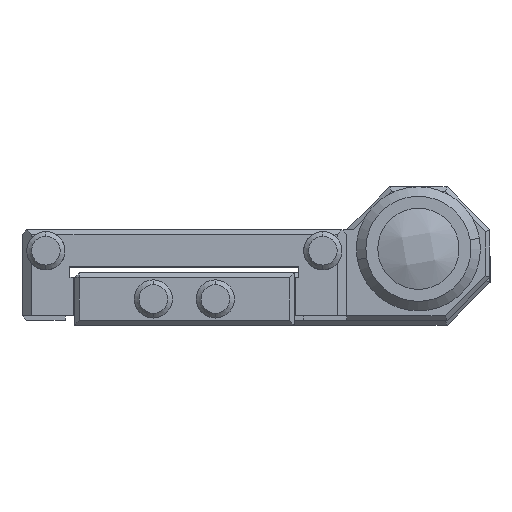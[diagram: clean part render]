
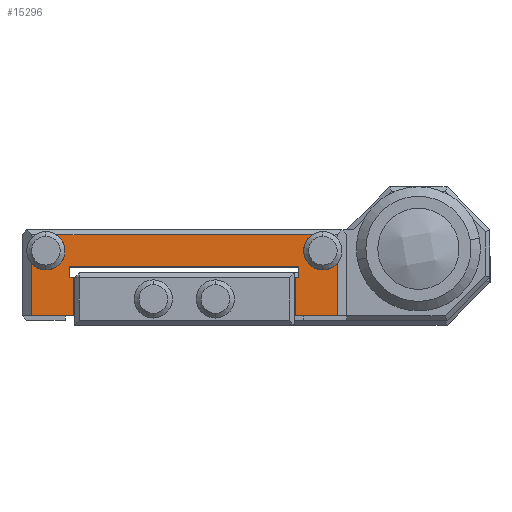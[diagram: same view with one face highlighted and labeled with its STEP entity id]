
A CAD part, left-side view. The second image highlights one B-rep face of the part: STEP entity #15296.
In plain terms, the highlighted planar face has unit normal (-1, 0, 0).
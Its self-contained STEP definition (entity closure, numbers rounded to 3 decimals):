
#12 = VERTEX_POINT ( 'NONE', #20867 ) ;
#289 = CARTESIAN_POINT ( 'NONE',  ( -17., -12., 5.7 ) ) ;
#360 = CARTESIAN_POINT ( 'NONE',  ( -17., -14.5, 7.3 ) ) ;
#939 = VECTOR ( 'NONE', #5331, 1000. ) ;
#1119 = CARTESIAN_POINT ( 'NONE',  ( -17., 14.5, 5.3 ) ) ;
#1230 = VECTOR ( 'NONE', #7948, 1000. ) ;
#1508 = ORIENTED_EDGE ( 'NONE', *, *, #19698, .F. ) ;
#1907 = VECTOR ( 'NONE', #25303, 1000. ) ;
#2067 = VECTOR ( 'NONE', #21913, 1000. ) ;
#2158 = ORIENTED_EDGE ( 'NONE', *, *, #13503, .F. ) ;
#2373 = CARTESIAN_POINT ( 'NONE',  ( -17., 0., 0. ) ) ;
#2487 = DIRECTION ( 'NONE',  ( 0., 0., -1. ) ) ;
#2815 = CARTESIAN_POINT ( 'NONE',  ( -17., -11.6, 4.5 ) ) ;
#3107 = VECTOR ( 'NONE', #11170, 1000. ) ;
#3125 = FACE_OUTER_BOUND ( 'NONE', #26405, .T. ) ;
#3163 = DIRECTION ( 'NONE',  ( 0., 0., 1. ) ) ;
#3299 = CARTESIAN_POINT ( 'NONE',  ( -17., -11.6, 0.5 ) ) ;
#3456 = CARTESIAN_POINT ( 'NONE',  ( -17., 13.446, 9. ) ) ;
#3812 = VERTEX_POINT ( 'NONE', #3299 ) ;
#4223 = LINE ( 'NONE', #22710, #23330 ) ;
#4507 = LINE ( 'NONE', #25790, #939 ) ;
#4589 = CARTESIAN_POINT ( 'NONE',  ( -17., -13.446, 9. ) ) ;
#4711 = EDGE_CURVE ( 'NONE', #3812, #24171, #5067, .T. ) ;
#4751 = ORIENTED_EDGE ( 'NONE', *, *, #21005, .F. ) ;
#4964 = CARTESIAN_POINT ( 'NONE',  ( -17., -16., 0. ) ) ;
#5067 = LINE ( 'NONE', #25838, #26444 ) ;
#5102 = VECTOR ( 'NONE', #12920, 1000. ) ;
#5184 = DIRECTION ( 'NONE',  ( 0., 0., -1. ) ) ;
#5331 = DIRECTION ( 'NONE',  ( 0., 0., 1. ) ) ;
#5410 = AXIS2_PLACEMENT_3D ( 'NONE', #16371, #20536, #18354 ) ;
#5489 = VERTEX_POINT ( 'NONE', #18974 ) ;
#5853 = CARTESIAN_POINT ( 'NONE',  ( -17., -12., 0. ) ) ;
#6793 = ORIENTED_EDGE ( 'NONE', *, *, #7812, .T. ) ;
#7169 = LINE ( 'NONE', #14220, #16560 ) ;
#7277 = LINE ( 'NONE', #9074, #3107 ) ;
#7563 = VERTEX_POINT ( 'NONE', #14218 ) ;
#7651 = AXIS2_PLACEMENT_3D ( 'NONE', #360, #18905, #2487 ) ;
#7812 = EDGE_CURVE ( 'NONE', #23933, #8408, #7277, .T. ) ;
#7873 = VERTEX_POINT ( 'NONE', #1119 ) ;
#7924 = LINE ( 'NONE', #5853, #18291 ) ;
#7948 = DIRECTION ( 'NONE',  ( 0., -1., 0. ) ) ;
#8183 = DIRECTION ( 'NONE',  ( 0., 0., -1. ) ) ;
#8408 = VERTEX_POINT ( 'NONE', #3456 ) ;
#8829 = CARTESIAN_POINT ( 'NONE',  ( -17., -14.5, 5.3 ) ) ;
#9074 = CARTESIAN_POINT ( 'NONE',  ( -17., 0., 9. ) ) ;
#9119 = DIRECTION ( 'NONE',  ( 1., 0., 0. ) ) ;
#9248 = VERTEX_POINT ( 'NONE', #18708 ) ;
#9729 = DIRECTION ( 'NONE',  ( -1., 0., 0. ) ) ;
#9850 = DIRECTION ( 'NONE',  ( -1., 0., 0. ) ) ;
#9946 = ORIENTED_EDGE ( 'NONE', *, *, #11439, .F. ) ;
#10401 = PLANE ( 'NONE',  #19712 ) ;
#11170 = DIRECTION ( 'NONE',  ( 0., 1., 0. ) ) ;
#11383 = DIRECTION ( 'NONE',  ( 0., 0., -1. ) ) ;
#11439 = EDGE_CURVE ( 'NONE', #21238, #19912, #4223, .T. ) ;
#11628 = ORIENTED_EDGE ( 'NONE', *, *, #21805, .F. ) ;
#11928 = CARTESIAN_POINT ( 'NONE',  ( -17., 11.6, 4.5 ) ) ;
#12137 = ORIENTED_EDGE ( 'NONE', *, *, #24673, .F. ) ;
#12262 = ORIENTED_EDGE ( 'NONE', *, *, #16581, .F. ) ;
#12325 = EDGE_CURVE ( 'NONE', #12, #5489, #4507, .T. ) ;
#12357 = DIRECTION ( 'NONE',  ( 0., 0., -1. ) ) ;
#12621 = EDGE_CURVE ( 'NONE', #19369, #3812, #22624, .T. ) ;
#12920 = DIRECTION ( 'NONE',  ( 0., 1., 0. ) ) ;
#13174 = ORIENTED_EDGE ( 'NONE', *, *, #24451, .F. ) ;
#13199 = AXIS2_PLACEMENT_3D ( 'NONE', #24160, #9850, #8183 ) ;
#13252 = ORIENTED_EDGE ( 'NONE', *, *, #4711, .F. ) ;
#13460 = DIRECTION ( 'NONE',  ( 0., 0., -1. ) ) ;
#13503 = EDGE_CURVE ( 'NONE', #17694, #21238, #23247, .T. ) ;
#13538 = DIRECTION ( 'NONE',  ( 0., 0., -1. ) ) ;
#13677 = ORIENTED_EDGE ( 'NONE', *, *, #25802, .F. ) ;
#13817 = CARTESIAN_POINT ( 'NONE',  ( -17., 0., 0.5 ) ) ;
#13824 = ORIENTED_EDGE ( 'NONE', *, *, #12325, .F. ) ;
#14218 = CARTESIAN_POINT ( 'NONE',  ( -17., -12., 4.5 ) ) ;
#14220 = CARTESIAN_POINT ( 'NONE',  ( -17., -12., 4.5 ) ) ;
#14614 = LINE ( 'NONE', #17667, #21458 ) ;
#15296 = ADVANCED_FACE ( 'NONE', ( #3125 ), #10401, .F. ) ;
#16204 = CARTESIAN_POINT ( 'NONE',  ( -17., 12., 4.5 ) ) ;
#16371 = CARTESIAN_POINT ( 'NONE',  ( -17., 14.5, 7.3 ) ) ;
#16560 = VECTOR ( 'NONE', #18297, 1000. ) ;
#16581 = EDGE_CURVE ( 'NONE', #19912, #12, #26009, .T. ) ;
#16952 = ORIENTED_EDGE ( 'NONE', *, *, #12621, .F. ) ;
#17213 = CIRCLE ( 'NONE', #18382, 2. ) ;
#17297 = CIRCLE ( 'NONE', #5410, 2. ) ;
#17667 = CARTESIAN_POINT ( 'NONE',  ( -17., 12., 0. ) ) ;
#17694 = VERTEX_POINT ( 'NONE', #22572 ) ;
#18135 = VERTEX_POINT ( 'NONE', #8829 ) ;
#18211 = CARTESIAN_POINT ( 'NONE',  ( -17., 12., 5.7 ) ) ;
#18242 = DIRECTION ( 'NONE',  ( 0., 0., 1. ) ) ;
#18291 = VECTOR ( 'NONE', #18242, 1000. ) ;
#18297 = DIRECTION ( 'NONE',  ( 0., -1., 0. ) ) ;
#18354 = DIRECTION ( 'NONE',  ( 0., 0., -1. ) ) ;
#18382 = AXIS2_PLACEMENT_3D ( 'NONE', #26307, #9729, #13538 ) ;
#18393 = ORIENTED_EDGE ( 'NONE', *, *, #25507, .F. ) ;
#18708 = CARTESIAN_POINT ( 'NONE',  ( -17., -16., 5.977 ) ) ;
#18905 = DIRECTION ( 'NONE',  ( -1., 0., 0. ) ) ;
#18974 = CARTESIAN_POINT ( 'NONE',  ( -17., 16., 5.977 ) ) ;
#18992 = LINE ( 'NONE', #25246, #5102 ) ;
#19369 = VERTEX_POINT ( 'NONE', #24041 ) ;
#19698 = EDGE_CURVE ( 'NONE', #22232, #22060, #18992, .T. ) ;
#19712 = AXIS2_PLACEMENT_3D ( 'NONE', #2373, #9119, #13460 ) ;
#19764 = LINE ( 'NONE', #4964, #21739 ) ;
#19901 = CARTESIAN_POINT ( 'NONE',  ( -17., 11.6, 0.5 ) ) ;
#19912 = VERTEX_POINT ( 'NONE', #19901 ) ;
#20536 = DIRECTION ( 'NONE',  ( -1., 0., 0. ) ) ;
#20867 = CARTESIAN_POINT ( 'NONE',  ( -17., 16., 0.5 ) ) ;
#21005 = EDGE_CURVE ( 'NONE', #23933, #18135, #22856, .T. ) ;
#21238 = VERTEX_POINT ( 'NONE', #11928 ) ;
#21458 = VECTOR ( 'NONE', #5184, 1000. ) ;
#21739 = VECTOR ( 'NONE', #11383, 1000. ) ;
#21805 = EDGE_CURVE ( 'NONE', #7873, #8408, #17297, .T. ) ;
#21888 = EDGE_CURVE ( 'NONE', #5489, #7873, #26378, .T. ) ;
#21913 = DIRECTION ( 'NONE',  ( 0., 1., 0. ) ) ;
#22060 = VERTEX_POINT ( 'NONE', #18211 ) ;
#22142 = ORIENTED_EDGE ( 'NONE', *, *, #21888, .F. ) ;
#22232 = VERTEX_POINT ( 'NONE', #289 ) ;
#22572 = CARTESIAN_POINT ( 'NONE',  ( -17., 12., 4.5 ) ) ;
#22624 = LINE ( 'NONE', #24320, #1907 ) ;
#22710 = CARTESIAN_POINT ( 'NONE',  ( -17., 11.6, 0. ) ) ;
#22856 = CIRCLE ( 'NONE', #7651, 2. ) ;
#23247 = LINE ( 'NONE', #16204, #1230 ) ;
#23330 = VECTOR ( 'NONE', #12357, 1000. ) ;
#23842 = ORIENTED_EDGE ( 'NONE', *, *, #26715, .F. ) ;
#23933 = VERTEX_POINT ( 'NONE', #4589 ) ;
#24041 = CARTESIAN_POINT ( 'NONE',  ( -17., -16., 0.5 ) ) ;
#24160 = CARTESIAN_POINT ( 'NONE',  ( -17., 14.5, 7.3 ) ) ;
#24171 = VERTEX_POINT ( 'NONE', #2815 ) ;
#24320 = CARTESIAN_POINT ( 'NONE',  ( -17., 0., 0.5 ) ) ;
#24451 = EDGE_CURVE ( 'NONE', #24171, #7563, #7169, .T. ) ;
#24673 = EDGE_CURVE ( 'NONE', #22060, #17694, #14614, .T. ) ;
#25246 = CARTESIAN_POINT ( 'NONE',  ( -17., 0., 5.7 ) ) ;
#25303 = DIRECTION ( 'NONE',  ( 0., 1., 0. ) ) ;
#25507 = EDGE_CURVE ( 'NONE', #7563, #22232, #7924, .T. ) ;
#25790 = CARTESIAN_POINT ( 'NONE',  ( -17., 16., 0. ) ) ;
#25802 = EDGE_CURVE ( 'NONE', #18135, #9248, #17213, .T. ) ;
#25838 = CARTESIAN_POINT ( 'NONE',  ( -17., -11.6, 0. ) ) ;
#26009 = LINE ( 'NONE', #13817, #2067 ) ;
#26307 = CARTESIAN_POINT ( 'NONE',  ( -17., -14.5, 7.3 ) ) ;
#26378 = CIRCLE ( 'NONE', #13199, 2. ) ;
#26405 = EDGE_LOOP ( 'NONE', ( #4751, #6793, #11628, #22142, #13824, #12262, #9946, #2158, #12137, #1508, #18393, #13174, #13252, #16952, #23842, #13677 ) ) ;
#26444 = VECTOR ( 'NONE', #3163, 1000. ) ;
#26715 = EDGE_CURVE ( 'NONE', #9248, #19369, #19764, .T. ) ;
